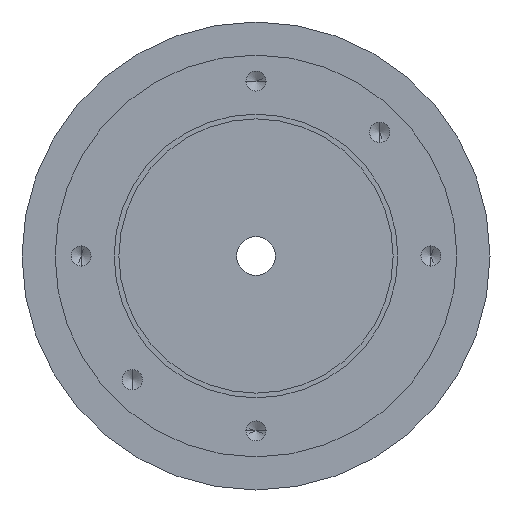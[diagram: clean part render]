
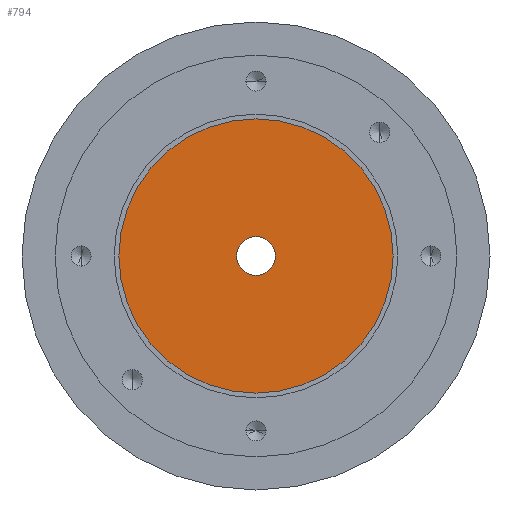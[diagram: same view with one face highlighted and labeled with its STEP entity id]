
A CAD part, left-side view. The second image highlights one B-rep face of the part: STEP entity #794.
In plain terms, the highlighted planar face has unit normal (-1, 0, 0).
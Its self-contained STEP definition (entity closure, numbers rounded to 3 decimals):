
#400 = VERTEX_POINT ( 'NONE', #1699 ) ;
#402 = EDGE_CURVE ( 'NONE', #400, #403, #1698, .T. ) ;
#403 = VERTEX_POINT ( 'NONE', #1693 ) ;
#651 = VERTEX_POINT ( 'NONE', #2230 ) ;
#653 = EDGE_CURVE ( 'NONE', #654, #651, #2229, .T. ) ;
#654 = VERTEX_POINT ( 'NONE', #2224 ) ;
#794 = ADVANCED_FACE ( 'NONE', ( #2591, #2590 ), #2589, .F. ) ;
#795 = EDGE_LOOP ( 'NONE', ( #796, #797 ) ) ;
#796 = ORIENTED_EDGE ( 'NONE', *, *, #653, .T. ) ;
#797 = ORIENTED_EDGE ( 'NONE', *, *, #798, .T. ) ;
#798 = EDGE_CURVE ( 'NONE', #651, #654, #2584, .T. ) ;
#799 = EDGE_LOOP ( 'NONE', ( #800, #802 ) ) ;
#800 = ORIENTED_EDGE ( 'NONE', *, *, #801, .F. ) ;
#801 = EDGE_CURVE ( 'NONE', #403, #400, #2579, .T. ) ;
#802 = ORIENTED_EDGE ( 'NONE', *, *, #402, .F. ) ;
#1693 = CARTESIAN_POINT ( 'NONE',  ( 0., 0., 8.25 ) ) ;
#1694 = DIRECTION ( 'NONE',  ( 0., 0., 1. ) ) ;
#1695 = DIRECTION ( 'NONE',  ( -1., 0., 0. ) ) ;
#1696 = CARTESIAN_POINT ( 'NONE',  ( 0., 0., 0. ) ) ;
#1697 = AXIS2_PLACEMENT_3D ( 'NONE', #1696, #1695, #1694 ) ;
#1698 = CIRCLE ( 'NONE', #1697, 8.25 ) ;
#1699 = CARTESIAN_POINT ( 'NONE',  ( 0., 0., -8.25 ) ) ;
#2224 = CARTESIAN_POINT ( 'NONE',  ( 0., 0., 58. ) ) ;
#2225 = DIRECTION ( 'NONE',  ( 0., 0., 1. ) ) ;
#2226 = DIRECTION ( 'NONE',  ( -1., 0., 0. ) ) ;
#2227 = CARTESIAN_POINT ( 'NONE',  ( 0., 0., 0. ) ) ;
#2228 = AXIS2_PLACEMENT_3D ( 'NONE', #2227, #2226, #2225 ) ;
#2229 = CIRCLE ( 'NONE', #2228, 58. ) ;
#2230 = CARTESIAN_POINT ( 'NONE',  ( 0., 0., -58. ) ) ;
#2575 = DIRECTION ( 'NONE',  ( 0., 0., 1. ) ) ;
#2576 = DIRECTION ( 'NONE',  ( -1., 0., 0. ) ) ;
#2577 = CARTESIAN_POINT ( 'NONE',  ( 0., 0., 0. ) ) ;
#2578 = AXIS2_PLACEMENT_3D ( 'NONE', #2577, #2576, #2575 ) ;
#2579 = CIRCLE ( 'NONE', #2578, 8.25 ) ;
#2580 = DIRECTION ( 'NONE',  ( 0., 0., 1. ) ) ;
#2581 = DIRECTION ( 'NONE',  ( -1., 0., 0. ) ) ;
#2582 = CARTESIAN_POINT ( 'NONE',  ( 0., 0., 0. ) ) ;
#2583 = AXIS2_PLACEMENT_3D ( 'NONE', #2582, #2581, #2580 ) ;
#2584 = CIRCLE ( 'NONE', #2583, 58. ) ;
#2585 = DIRECTION ( 'NONE',  ( 0., 0., -1. ) ) ;
#2586 = DIRECTION ( 'NONE',  ( 1., 0., 0. ) ) ;
#2587 = CARTESIAN_POINT ( 'NONE',  ( 0., 0., 0. ) ) ;
#2588 = AXIS2_PLACEMENT_3D ( 'NONE', #2587, #2586, #2585 ) ;
#2589 = PLANE ( 'NONE',  #2588 ) ;
#2590 = FACE_BOUND ( 'NONE', #799, .T. ) ;
#2591 = FACE_OUTER_BOUND ( 'NONE', #795, .T. ) ;
